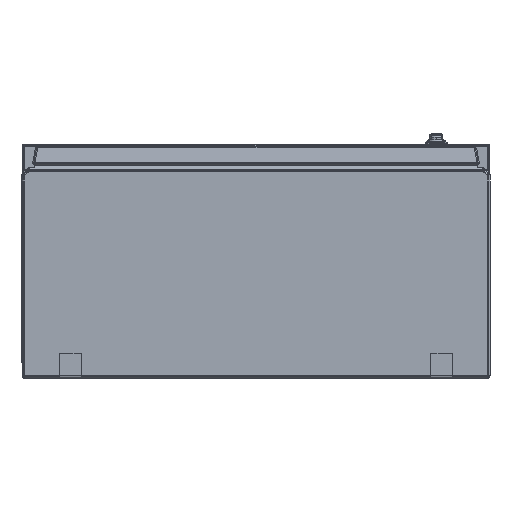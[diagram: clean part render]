
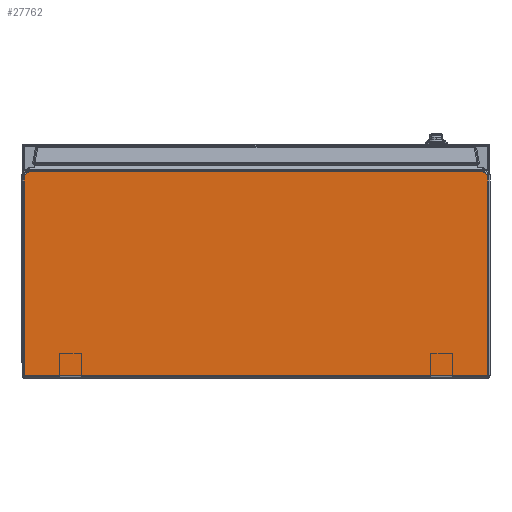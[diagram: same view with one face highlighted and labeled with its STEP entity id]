
A CAD part, front view. The second image highlights one B-rep face of the part: STEP entity #27762.
In plain terms, the highlighted planar face has unit normal (0, -1, 0).
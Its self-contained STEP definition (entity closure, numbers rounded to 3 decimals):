
#772 = VERTEX_POINT ( 'NONE', #16085 ) ;
#1042 = LINE ( 'NONE', #12923, #19112 ) ;
#1158 = EDGE_CURVE ( 'NONE', #32108, #37325, #1042, .T. ) ;
#1511 = VECTOR ( 'NONE', #34367, 1000. ) ;
#1810 = LINE ( 'NONE', #13694, #4827 ) ;
#1956 = EDGE_CURVE ( 'NONE', #20167, #32108, #1810, .T. ) ;
#2288 = CARTESIAN_POINT ( 'NONE',  ( 293.995, -597.5, -37.457 ) ) ;
#3581 = DIRECTION ( 'NONE',  ( 1., 0., 0. ) ) ;
#4827 = VECTOR ( 'NONE', #25553, 1000. ) ;
#5580 = VECTOR ( 'NONE', #21941, 1000. ) ;
#6499 = PLANE ( 'NONE',  #37407 ) ;
#9283 = DIRECTION ( 'NONE',  ( 0., 0., -1. ) ) ;
#9523 = CARTESIAN_POINT ( 'NONE',  ( 290.485, -597.5, -35. ) ) ;
#10062 = CARTESIAN_POINT ( 'NONE',  ( 300., -597.5, -297. ) ) ;
#10597 = LINE ( 'NONE', #22486, #1511 ) ;
#12269 = CARTESIAN_POINT ( 'NONE',  ( -290.485, -597.5, -35. ) ) ;
#12432 = ORIENTED_EDGE ( 'NONE', *, *, #1158, .T. ) ;
#12923 = CARTESIAN_POINT ( 'NONE',  ( -297., -597.5, -39.562 ) ) ;
#13694 = CARTESIAN_POINT ( 'NONE',  ( 300., -597.5, -35. ) ) ;
#14184 = DIRECTION ( 'NONE',  ( -0.819, 0., 0.574 ) ) ;
#16085 = CARTESIAN_POINT ( 'NONE',  ( 297., -597.5, -297. ) ) ;
#18294 = ORIENTED_EDGE ( 'NONE', *, *, #29836, .T. ) ;
#18395 = CARTESIAN_POINT ( 'NONE',  ( 300., -597.5, -300. ) ) ;
#18785 = VECTOR ( 'NONE', #14184, 1000. ) ;
#19112 = VECTOR ( 'NONE', #24781, 1000. ) ;
#19372 = EDGE_CURVE ( 'NONE', #772, #23031, #10597, .T. ) ;
#19691 = ORIENTED_EDGE ( 'NONE', *, *, #32430, .T. ) ;
#20167 = VERTEX_POINT ( 'NONE', #9523 ) ;
#20640 = EDGE_CURVE ( 'NONE', #37325, #27037, #24076, .T. ) ;
#21710 = CARTESIAN_POINT ( 'NONE',  ( 297., -597.5, -39.562 ) ) ;
#21941 = DIRECTION ( 'NONE',  ( 1., 0., 0. ) ) ;
#22486 = CARTESIAN_POINT ( 'NONE',  ( 297., -597.5, -300. ) ) ;
#23031 = VERTEX_POINT ( 'NONE', #21710 ) ;
#24076 = LINE ( 'NONE', #35985, #30728 ) ;
#24781 = DIRECTION ( 'NONE',  ( -0.819, 0., -0.574 ) ) ;
#25201 = CARTESIAN_POINT ( 'NONE',  ( -297., -597.5, -39.562 ) ) ;
#25465 = CARTESIAN_POINT ( 'NONE',  ( -297., -597.5, -297. ) ) ;
#25553 = DIRECTION ( 'NONE',  ( -1., 0., 0. ) ) ;
#26301 = ORIENTED_EDGE ( 'NONE', *, *, #19372, .T. ) ;
#27037 = VERTEX_POINT ( 'NONE', #25465 ) ;
#27522 = ORIENTED_EDGE ( 'NONE', *, *, #1956, .T. ) ;
#27762 = ADVANCED_FACE ( 'NONE', ( #33198 ), #6499, .T. ) ;
#28972 = LINE ( 'NONE', #2288, #18785 ) ;
#29836 = EDGE_CURVE ( 'NONE', #27037, #772, #36749, .T. ) ;
#30277 = DIRECTION ( 'NONE',  ( 0., -1., 0. ) ) ;
#30728 = VECTOR ( 'NONE', #9283, 1000. ) ;
#32108 = VERTEX_POINT ( 'NONE', #12269 ) ;
#32352 = ORIENTED_EDGE ( 'NONE', *, *, #20640, .T. ) ;
#32430 = EDGE_CURVE ( 'NONE', #23031, #20167, #28972, .T. ) ;
#33198 = FACE_OUTER_BOUND ( 'NONE', #37203, .T. ) ;
#34367 = DIRECTION ( 'NONE',  ( 0., 0., 1. ) ) ;
#35985 = CARTESIAN_POINT ( 'NONE',  ( -297., -597.5, -300. ) ) ;
#36749 = LINE ( 'NONE', #10062, #5580 ) ;
#37203 = EDGE_LOOP ( 'NONE', ( #26301, #19691, #27522, #12432, #32352, #18294 ) ) ;
#37325 = VERTEX_POINT ( 'NONE', #25201 ) ;
#37407 = AXIS2_PLACEMENT_3D ( 'NONE', #18395, #30277, #3581 ) ;
